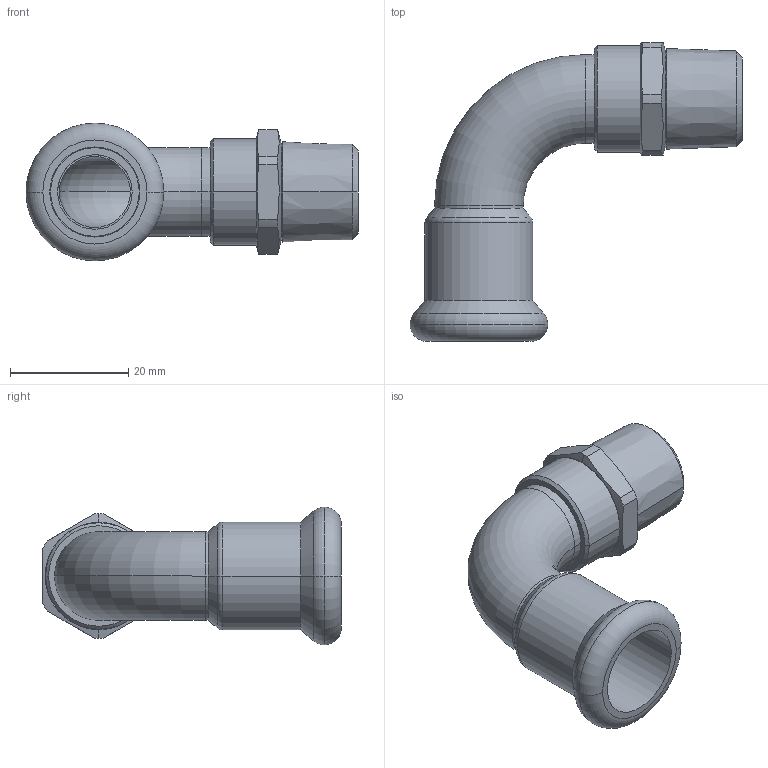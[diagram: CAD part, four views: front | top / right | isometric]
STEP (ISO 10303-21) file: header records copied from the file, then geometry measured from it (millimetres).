
FILE_DESCRIPTION(('CoCreate Modeling STEP Export'),'2;1');
FILE_NAME('C1430 15xR3-8.stp','2014-11-12T16:15:22',(''),(''),'CoCreate Modeling STEP processor for AP214 (Solid Model)','CoCreate Modeling 17.00A 17-Jun-2010 (C) Parametric Technology GmbH','');
FILE_SCHEMA(('AUTOMOTIVE_DESIGN { 1 0 10303 214 1 1 1 1 }'));
Length unit declared in the file: millimetre
Products named in the file (2): C1430_15xR3-8
Assembly tree (1 placements, depth 2):
  C1430_15xR3-8
    C1430_15xR3-8
Bounding box: 56.15 x 50.5 x 23.3 mm (x, y, z)
Volume: 7707.1 mm3; surface area: 7910.8 mm2
Topology: 1 solids, 1 shells, 63 faces, 143 edges, 87 vertices
Faces by surface type: cylinder 24, cone 16, plane 13, torus 10
Entity records: 2034 total; most frequent: CARTESIAN_POINT 770, ORIENTED_EDGE 286, DIRECTION 216, EDGE_CURVE 143, VERTEX_POINT 87, AXIS2_PLACEMENT_3D 85, EDGE_LOOP 70, FACE_OUTER_BOUND 63
